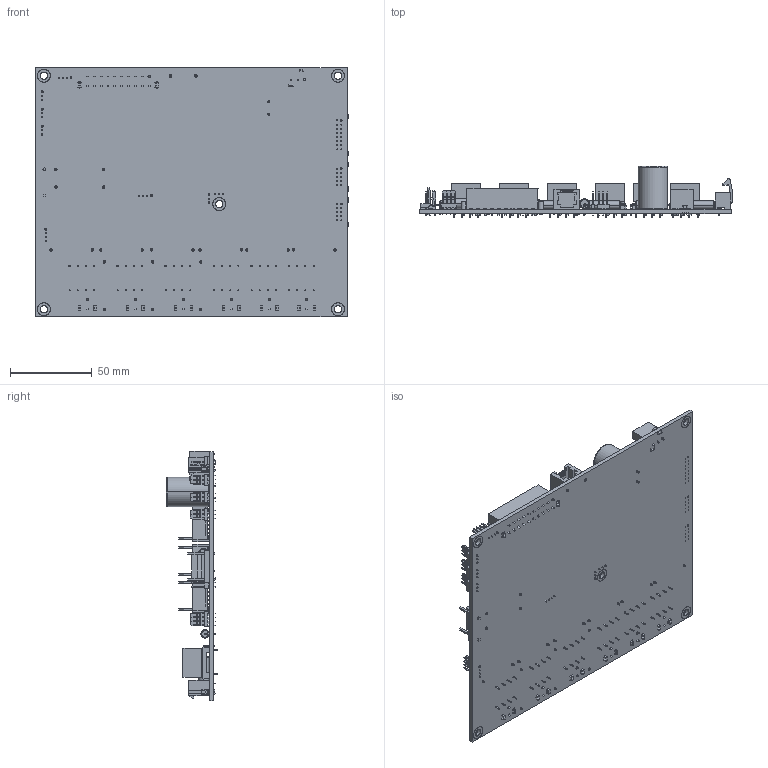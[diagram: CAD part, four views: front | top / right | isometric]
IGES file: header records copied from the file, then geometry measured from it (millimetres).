
Start section: SolidWorks IGES file using analytic representation for surfaces
Global section: file name: Y:\CADdata\solidworks_parts\pcb_assemblies\PCB-11205A_01A.IGS; native system: SolidWorks 2016; preprocessor: SolidWorks 2016; author: rstaley; date: 161118.113844; units: millimetre
Bounding box: 191.26 x 31.5 x 152.43 mm (x, y, z)
Surface area: 106497.6 mm2 (no closed solid volume)
Topology: 0 solids, 0 shells, 3863 faces, 28656 edges, 28612 vertices
Faces by surface type: bspline 3033, revolution 830
